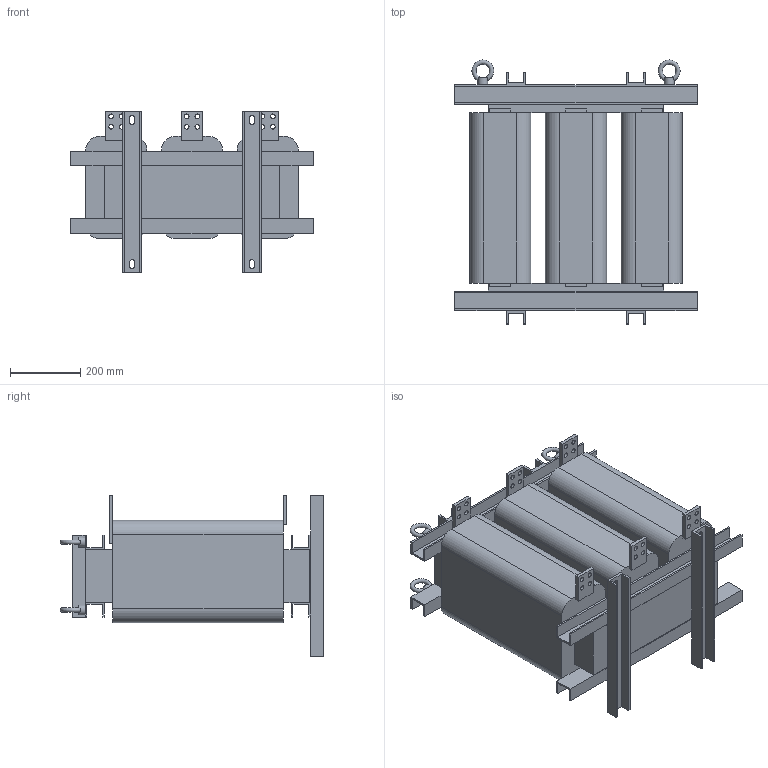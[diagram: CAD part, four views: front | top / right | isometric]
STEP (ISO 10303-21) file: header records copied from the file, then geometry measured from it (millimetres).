
FILE_DESCRIPTION(/* description */ (''),/* implementation_level */ '2;1');
FILE_NAME(/* name */ 'ACO-1200-T6-4.stp',/* time_stamp */ '2025-01-23T16:44:42+04:00',/* author */ ('Александр (огранич)'),/* organization */ (''),/* preprocessor_version */ 'ST-DEVELOPER v19.2',/* originating_system */ 'Autodesk Inventor 2024',/* authorisation */ '');
FILE_SCHEMA (('AUTOMOTIVE_DESIGN { 1 0 10303 214 3 1 1 }'));
Length unit declared in the file: millimetre
Products named in the file (1): ACO-0015-T4-4
Bounding box: 690 x 749.99 x 460.5 mm (x, y, z)
Volume: 86538748.5 mm3; surface area: 2724303.2 mm2
Topology: 1 solids, 1 shells, 226 faces, 644 edges, 408 vertices
Faces by surface type: plane 174, cylinder 48, torus 4
Full cylindrical faces by diameter (mm): 13 x24, 28 x4
Entity records: 7731 total; most frequent: CARTESIAN_POINT 1631, ORIENTED_EDGE 1288, DIRECTION 1186, EDGE_CURVE 644, LINE 516, VECTOR 516, VERTEX_POINT 408, AXIS2_PLACEMENT_3D 335
